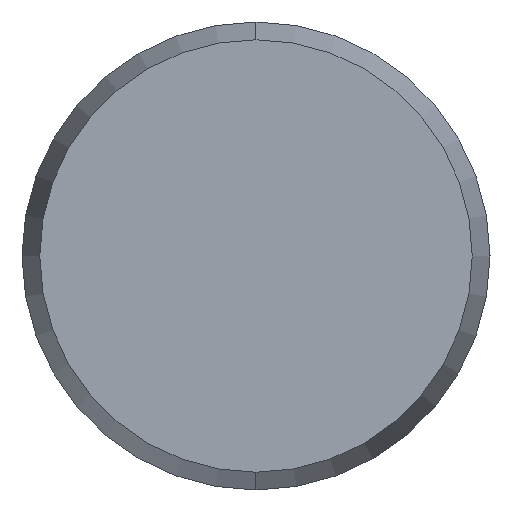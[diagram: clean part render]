
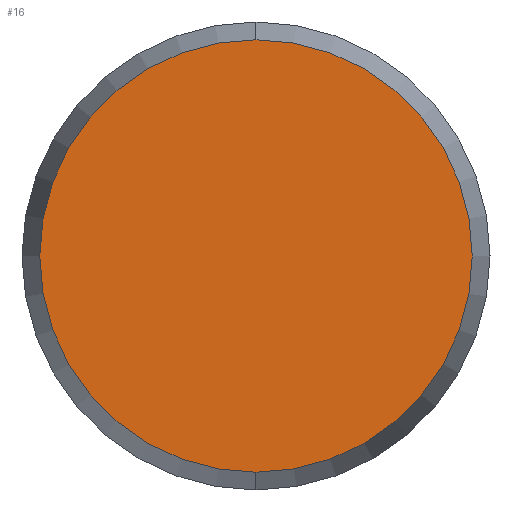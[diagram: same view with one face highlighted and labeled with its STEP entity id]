
A CAD part, left-side view. The second image highlights one B-rep face of the part: STEP entity #16.
In plain terms, the highlighted planar face has unit normal (-1, 0, 0).
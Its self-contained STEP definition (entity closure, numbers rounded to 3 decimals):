
#8 = EDGE_LOOP ( 'NONE', ( #9, #58 ) ) ;
#9 = ORIENTED_EDGE ( 'NONE', *, *, #77, .F. ) ;
#16 = ADVANCED_FACE ( 'NONE', ( #83 ), #93, .F. ) ;
#18 = EDGE_CURVE ( 'NONE', #55, #54, #128, .T. ) ;
#54 = VERTEX_POINT ( 'NONE', #163 ) ;
#55 = VERTEX_POINT ( 'NONE', #162 ) ;
#58 = ORIENTED_EDGE ( 'NONE', *, *, #18, .F. ) ;
#77 = EDGE_CURVE ( 'NONE', #54, #55, #154, .T. ) ;
#83 = FACE_OUTER_BOUND ( 'NONE', #8, .T. ) ;
#89 = DIRECTION ( 'NONE',  ( 0., 0., -1. ) ) ;
#90 = DIRECTION ( 'NONE',  ( 1., 0., 0. ) ) ;
#91 = CARTESIAN_POINT ( 'NONE',  ( -55., 0., 0. ) ) ;
#92 = AXIS2_PLACEMENT_3D ( 'NONE', #91, #90, #89 ) ;
#93 = PLANE ( 'NONE',  #92 ) ;
#94 = CARTESIAN_POINT ( 'NONE',  ( -55., 0., 0. ) ) ;
#125 = DIRECTION ( 'NONE',  ( 0., 0., -1. ) ) ;
#126 = DIRECTION ( 'NONE',  ( 1., 0., 0. ) ) ;
#127 = AXIS2_PLACEMENT_3D ( 'NONE', #94, #126, #125 ) ;
#128 = CIRCLE ( 'NONE', #127, 5.544 ) ;
#146 = DIRECTION ( 'NONE',  ( 0., 0., -1. ) ) ;
#147 = DIRECTION ( 'NONE',  ( 1., 0., 0. ) ) ;
#148 = CARTESIAN_POINT ( 'NONE',  ( -55., 0., 0. ) ) ;
#149 = AXIS2_PLACEMENT_3D ( 'NONE', #148, #147, #146 ) ;
#154 = CIRCLE ( 'NONE', #149, 5.544 ) ;
#162 = CARTESIAN_POINT ( 'NONE',  ( -55., 0., -5.544 ) ) ;
#163 = CARTESIAN_POINT ( 'NONE',  ( -55., 0., 5.544 ) ) ;
